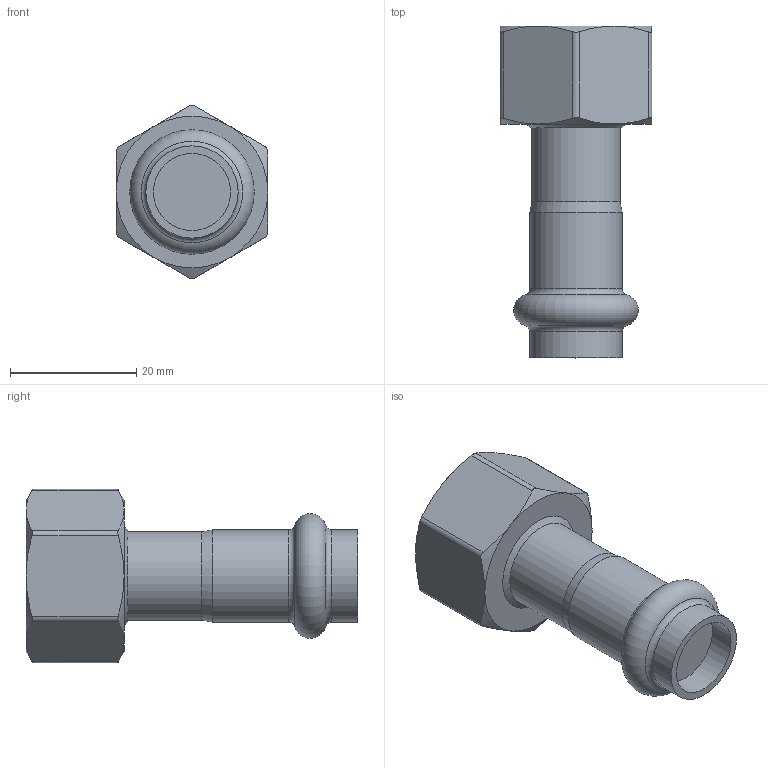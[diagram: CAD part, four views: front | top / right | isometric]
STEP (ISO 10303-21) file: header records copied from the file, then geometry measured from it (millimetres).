
FILE_DESCRIPTION(('STEP AP203'), '1');
FILE_NAME('VTi.908.I.001204', '', ('UNSPECIFIED'), ('UNSPECIFIED'), 'C3D Converter', 'C3D Toolkit', '');
FILE_SCHEMA(('CONFIG_CONTROL_DESIGN'));
Length unit declared in the file: millimetre
Bounding box: 24 x 52.5 x 27.4 mm (x, y, z)
Volume: 11406.9 mm3; surface area: 4695.8 mm2
Topology: 1 solids, 1 shells, 39 faces, 85 edges, 51 vertices
Faces by surface type: cone 14, plane 11, cylinder 11, torus 3
Full cylindrical faces by diameter (mm): 12.2 x1, 14 x1, 14.6 x2, 18.632 x1
Entity records: 1855 total; most frequent: CARTESIAN_POINT 1055, ORIENTED_EDGE 148, DIRECTION 146, EDGE_CURVE 74, AXIS2_PLACEMENT_3D 67, EDGE_LOOP 53, VERTEX_POINT 51, ADVANCED_FACE 39
